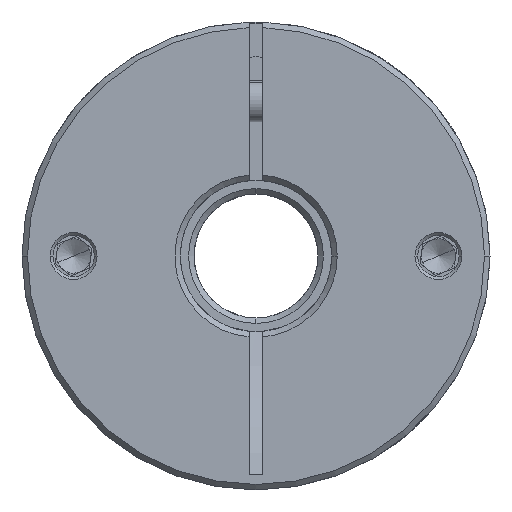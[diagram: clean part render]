
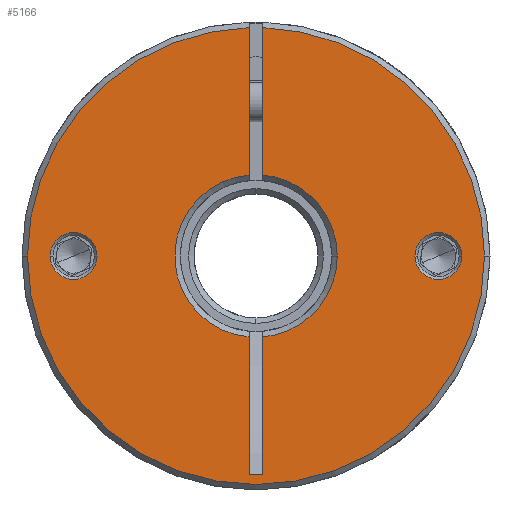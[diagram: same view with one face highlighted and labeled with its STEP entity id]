
A CAD part, front view. The second image highlights one B-rep face of the part: STEP entity #5166.
In plain terms, the highlighted planar face has unit normal (0, -1, 0).
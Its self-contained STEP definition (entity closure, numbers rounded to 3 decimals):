
#74 = DIRECTION ( 'NONE',  ( 0., 1., 0. ) ) ;
#81 = DIRECTION ( 'NONE',  ( 0., -1., 0. ) ) ;
#233 = CARTESIAN_POINT ( 'NONE',  ( 23.765, -47.045, 68. ) ) ;
#357 = DIRECTION ( 'NONE',  ( 1., 0., 0. ) ) ;
#404 = DIRECTION ( 'NONE',  ( 1., 0., 0. ) ) ;
#437 = DIRECTION ( 'NONE',  ( 0., 1., 0. ) ) ;
#475 = DIRECTION ( 'NONE',  ( 0., 1., 0. ) ) ;
#510 = CARTESIAN_POINT ( 'NONE',  ( -2.735, -47.045, 68. ) ) ;
#693 = AXIS2_PLACEMENT_3D ( 'NONE', #233, #8467, #9472 ) ;
#768 = CIRCLE ( 'NONE', #1514, 33.2 ) ;
#889 = EDGE_LOOP ( 'NONE', ( #8716, #8727 ) ) ;
#911 = DIRECTION ( 'NONE',  ( 0., -1., 0. ) ) ;
#935 = VERTEX_POINT ( 'NONE', #12915 ) ;
#1048 = CARTESIAN_POINT ( 'NONE',  ( -2.735, -47.045, 68. ) ) ;
#1096 = ORIENTED_EDGE ( 'NONE', *, *, #7890, .T. ) ;
#1154 = LINE ( 'NONE', #13301, #8468 ) ;
#1307 = CARTESIAN_POINT ( 'NONE',  ( -32.635, -47.045, 68. ) ) ;
#1314 = DIRECTION ( 'NONE',  ( 0., 1., 0. ) ) ;
#1387 = ORIENTED_EDGE ( 'NONE', *, *, #11861, .T. ) ;
#1394 = CARTESIAN_POINT ( 'NONE',  ( -29.235, -47.045, 68. ) ) ;
#1497 = ORIENTED_EDGE ( 'NONE', *, *, #12027, .T. ) ;
#1514 = AXIS2_PLACEMENT_3D ( 'NONE', #1048, #81, #2093 ) ;
#1519 = CARTESIAN_POINT ( 'NONE',  ( -25.835, -47.045, 68. ) ) ;
#1603 = VERTEX_POINT ( 'NONE', #3896 ) ;
#1604 = FACE_OUTER_BOUND ( 'NONE', #5357, .T. ) ;
#1665 = EDGE_CURVE ( 'NONE', #13373, #935, #4007, .T. ) ;
#1716 = EDGE_CURVE ( 'NONE', #935, #7750, #4652, .T. ) ;
#1762 = EDGE_CURVE ( 'NONE', #4165, #12940, #3481, .T. ) ;
#1904 = AXIS2_PLACEMENT_3D ( 'NONE', #5209, #12376, #2120 ) ;
#2000 = VECTOR ( 'NONE', #9620, 1000. ) ;
#2032 = CARTESIAN_POINT ( 'NONE',  ( -2.735, -47.045, 68. ) ) ;
#2054 = VERTEX_POINT ( 'NONE', #1519 ) ;
#2093 = DIRECTION ( 'NONE',  ( 1., 0., 0. ) ) ;
#2120 = DIRECTION ( 'NONE',  ( 1., 0., 0. ) ) ;
#2131 = CIRCLE ( 'NONE', #8791, 11.8 ) ;
#2298 = CIRCLE ( 'NONE', #693, 3.4 ) ;
#2341 = VECTOR ( 'NONE', #3295, 1000. ) ;
#2363 = EDGE_CURVE ( 'NONE', #4519, #1603, #8208, .T. ) ;
#2410 = AXIS2_PLACEMENT_3D ( 'NONE', #6694, #437, #10861 ) ;
#2515 = ORIENTED_EDGE ( 'NONE', *, *, #1762, .T. ) ;
#3172 = ORIENTED_EDGE ( 'NONE', *, *, #9155, .F. ) ;
#3230 = DIRECTION ( 'NONE',  ( 1., 0., 0. ) ) ;
#3232 = ORIENTED_EDGE ( 'NONE', *, *, #11909, .F. ) ;
#3295 = DIRECTION ( 'NONE',  ( -1., 0., 0. ) ) ;
#3469 = DIRECTION ( 'NONE',  ( 0., 0., -1. ) ) ;
#3481 = CIRCLE ( 'NONE', #4689, 11.8 ) ;
#3524 = CARTESIAN_POINT ( 'NONE',  ( 20.365, -47.045, 68. ) ) ;
#3529 = EDGE_CURVE ( 'NONE', #12528, #10363, #2298, .T. ) ;
#3572 = FACE_BOUND ( 'NONE', #11836, .T. ) ;
#3896 = CARTESIAN_POINT ( 'NONE',  ( -3.735, -47.045, 36.279 ) ) ;
#4007 = CIRCLE ( 'NONE', #12158, 33.2 ) ;
#4165 = VERTEX_POINT ( 'NONE', #8986 ) ;
#4433 = CARTESIAN_POINT ( 'NONE',  ( 27.165, -47.045, 68. ) ) ;
#4435 = AXIS2_PLACEMENT_3D ( 'NONE', #9744, #1314, #404 ) ;
#4446 = CARTESIAN_POINT ( 'NONE',  ( -3.735, -47.045, 36.279 ) ) ;
#4463 = LINE ( 'NONE', #11676, #2000 ) ;
#4519 = VERTEX_POINT ( 'NONE', #9317 ) ;
#4652 = CIRCLE ( 'NONE', #13015, 33.2 ) ;
#4689 = AXIS2_PLACEMENT_3D ( 'NONE', #10451, #74, #7351 ) ;
#4855 = AXIS2_PLACEMENT_3D ( 'NONE', #510, #475, #5675 ) ;
#5166 = ADVANCED_FACE ( 'NONE', ( #9254, #3572, #1604 ), #8348, .T. ) ;
#5209 = CARTESIAN_POINT ( 'NONE',  ( -2.735, -47.045, 68. ) ) ;
#5215 = CARTESIAN_POINT ( 'NONE',  ( -2.735, -47.045, 68. ) ) ;
#5271 = ORIENTED_EDGE ( 'NONE', *, *, #9998, .T. ) ;
#5357 = EDGE_LOOP ( 'NONE', ( #3172, #5913, #6779, #1096, #1387, #2515, #1497, #11386, #5524, #3232, #5455 ) ) ;
#5404 = CARTESIAN_POINT ( 'NONE',  ( -3.735, -47.045, 68. ) ) ;
#5455 = ORIENTED_EDGE ( 'NONE', *, *, #7668, .T. ) ;
#5524 = ORIENTED_EDGE ( 'NONE', *, *, #2363, .T. ) ;
#5572 = LINE ( 'NONE', #12965, #8798 ) ;
#5675 = DIRECTION ( 'NONE',  ( 1., 0., 0. ) ) ;
#5913 = ORIENTED_EDGE ( 'NONE', *, *, #1665, .T. ) ;
#6272 = LINE ( 'NONE', #5404, #9997 ) ;
#6416 = DIRECTION ( 'NONE',  ( 1., 0., 0. ) ) ;
#6466 = VERTEX_POINT ( 'NONE', #1307 ) ;
#6594 = CARTESIAN_POINT ( 'NONE',  ( -3.735, -47.045, 79.758 ) ) ;
#6694 = CARTESIAN_POINT ( 'NONE',  ( -29.235, -47.045, 68. ) ) ;
#6737 = CIRCLE ( 'NONE', #4435, 3.4 ) ;
#6779 = ORIENTED_EDGE ( 'NONE', *, *, #1716, .T. ) ;
#6858 = AXIS2_PLACEMENT_3D ( 'NONE', #1394, #12795, #357 ) ;
#7351 = DIRECTION ( 'NONE',  ( 1., 0., 0. ) ) ;
#7387 = CARTESIAN_POINT ( 'NONE',  ( -3.735, -47.045, 56.242 ) ) ;
#7460 = CARTESIAN_POINT ( 'NONE',  ( -2.735, -47.045, 68. ) ) ;
#7668 = EDGE_CURVE ( 'NONE', #8642, #9981, #11355, .T. ) ;
#7750 = VERTEX_POINT ( 'NONE', #12233 ) ;
#7890 = EDGE_CURVE ( 'NONE', #7750, #10519, #768, .T. ) ;
#8208 = LINE ( 'NONE', #4446, #2341 ) ;
#8348 = PLANE ( 'NONE',  #1904 ) ;
#8467 = DIRECTION ( 'NONE',  ( 0., 1., 0. ) ) ;
#8468 = VECTOR ( 'NONE', #11108, 1000. ) ;
#8520 = CARTESIAN_POINT ( 'NONE',  ( -3.735, -47.045, 101.185 ) ) ;
#8551 = ORIENTED_EDGE ( 'NONE', *, *, #9607, .T. ) ;
#8642 = VERTEX_POINT ( 'NONE', #7387 ) ;
#8671 = CARTESIAN_POINT ( 'NONE',  ( -1.735, -47.045, 101.185 ) ) ;
#8716 = ORIENTED_EDGE ( 'NONE', *, *, #10469, .T. ) ;
#8727 = ORIENTED_EDGE ( 'NONE', *, *, #3529, .T. ) ;
#8791 = AXIS2_PLACEMENT_3D ( 'NONE', #7460, #10604, #6416 ) ;
#8798 = VECTOR ( 'NONE', #8994, 1000. ) ;
#8912 = CARTESIAN_POINT ( 'NONE',  ( -1.735, -47.045, 56.242 ) ) ;
#8986 = CARTESIAN_POINT ( 'NONE',  ( -1.735, -47.045, 79.758 ) ) ;
#8994 = DIRECTION ( 'NONE',  ( 0., 0., -1. ) ) ;
#9155 = EDGE_CURVE ( 'NONE', #13373, #9981, #6272, .T. ) ;
#9254 = FACE_BOUND ( 'NONE', #889, .T. ) ;
#9317 = CARTESIAN_POINT ( 'NONE',  ( -1.735, -47.045, 36.279 ) ) ;
#9472 = DIRECTION ( 'NONE',  ( 1., 0., 0. ) ) ;
#9607 = EDGE_CURVE ( 'NONE', #2054, #6466, #12096, .T. ) ;
#9620 = DIRECTION ( 'NONE',  ( 0., 0., -1. ) ) ;
#9744 = CARTESIAN_POINT ( 'NONE',  ( 23.765, -47.045, 68. ) ) ;
#9981 = VERTEX_POINT ( 'NONE', #6594 ) ;
#9997 = VECTOR ( 'NONE', #3469, 1000. ) ;
#9998 = EDGE_CURVE ( 'NONE', #6466, #2054, #10154, .T. ) ;
#10154 = CIRCLE ( 'NONE', #2410, 3.4 ) ;
#10363 = VERTEX_POINT ( 'NONE', #4433 ) ;
#10451 = CARTESIAN_POINT ( 'NONE',  ( -2.735, -47.045, 68. ) ) ;
#10469 = EDGE_CURVE ( 'NONE', #10363, #12528, #6737, .T. ) ;
#10519 = VERTEX_POINT ( 'NONE', #8671 ) ;
#10543 = VERTEX_POINT ( 'NONE', #8912 ) ;
#10604 = DIRECTION ( 'NONE',  ( 0., 1., 0. ) ) ;
#10861 = DIRECTION ( 'NONE',  ( 1., 0., 0. ) ) ;
#10891 = EDGE_CURVE ( 'NONE', #10543, #4519, #4463, .T. ) ;
#11108 = DIRECTION ( 'NONE',  ( 0., 0., -1. ) ) ;
#11355 = CIRCLE ( 'NONE', #4855, 11.8 ) ;
#11386 = ORIENTED_EDGE ( 'NONE', *, *, #10891, .T. ) ;
#11509 = CARTESIAN_POINT ( 'NONE',  ( 9.065, -47.045, 68. ) ) ;
#11676 = CARTESIAN_POINT ( 'NONE',  ( -1.735, -47.045, 68. ) ) ;
#11836 = EDGE_LOOP ( 'NONE', ( #8551, #5271 ) ) ;
#11861 = EDGE_CURVE ( 'NONE', #10519, #4165, #1154, .T. ) ;
#11909 = EDGE_CURVE ( 'NONE', #8642, #1603, #5572, .T. ) ;
#12027 = EDGE_CURVE ( 'NONE', #12940, #10543, #2131, .T. ) ;
#12096 = CIRCLE ( 'NONE', #6858, 3.4 ) ;
#12158 = AXIS2_PLACEMENT_3D ( 'NONE', #2032, #911, #12261 ) ;
#12233 = CARTESIAN_POINT ( 'NONE',  ( 30.465, -47.045, 68. ) ) ;
#12261 = DIRECTION ( 'NONE',  ( 1., 0., 0. ) ) ;
#12376 = DIRECTION ( 'NONE',  ( 0., -1., 0. ) ) ;
#12429 = DIRECTION ( 'NONE',  ( 0., -1., 0. ) ) ;
#12528 = VERTEX_POINT ( 'NONE', #3524 ) ;
#12795 = DIRECTION ( 'NONE',  ( 0., 1., 0. ) ) ;
#12915 = CARTESIAN_POINT ( 'NONE',  ( -35.935, -47.045, 68. ) ) ;
#12940 = VERTEX_POINT ( 'NONE', #11509 ) ;
#12965 = CARTESIAN_POINT ( 'NONE',  ( -3.735, -47.045, 68. ) ) ;
#13015 = AXIS2_PLACEMENT_3D ( 'NONE', #5215, #12429, #3230 ) ;
#13301 = CARTESIAN_POINT ( 'NONE',  ( -1.735, -47.045, 68. ) ) ;
#13373 = VERTEX_POINT ( 'NONE', #8520 ) ;
